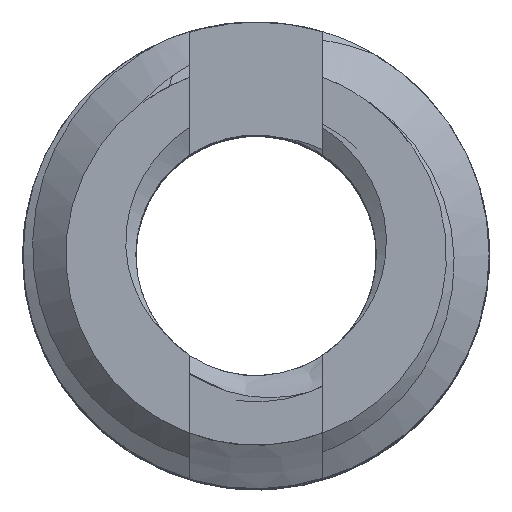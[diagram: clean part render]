
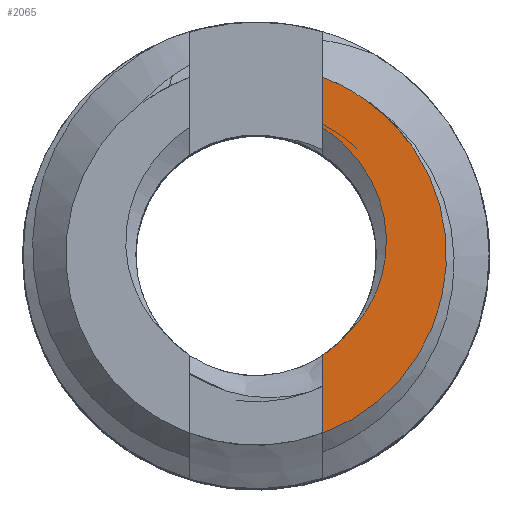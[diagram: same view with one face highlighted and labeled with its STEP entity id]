
A CAD part, top view. The second image highlights one B-rep face of the part: STEP entity #2065.
In plain terms, the highlighted planar face has unit normal (0, 0, 1).
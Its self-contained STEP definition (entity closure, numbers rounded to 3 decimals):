
#52=PLANE('',#2185);
#161=FACE_OUTER_BOUND('',#271,.T.);
#271=EDGE_LOOP('',(#1874,#1875,#1876,#1877,#1878,#1879,#1880));
#283=CIRCLE('',#2166,1.995);
#286=CIRCLE('',#2176,1.265);
#288=CIRCLE('',#2182,2.);
#451=B_SPLINE_CURVE_WITH_KNOTS('',3,(#5705,#5706,#5707,#5708),
 .UNSPECIFIED.,.F.,.F.,(4,4),(0.459,0.464),
 .UNSPECIFIED.);
#484=B_SPLINE_CURVE_WITH_KNOTS('',3,(#7319,#7320,#7321,#7322,#7323,#7324,
#7325,#7326,#7327,#7328,#7329,#7330,#7331,#7332,#7333,#7334,#7335,#7336,
#7337,#7338,#7339,#7340,#7341,#7342,#7343,#7344,#7345,#7346,#7347,#7348,
#7349,#7350,#7351,#7352,#7353,#7354,#7355,#7356,#7357,#7358,#7359,#7360,
#7361,#7362,#7363,#7364,#7365,#7366,#7367,#7368,#7369,#7370,#7371,#7372,
#7373,#7374,#7375,#7376,#7377,#7378,#7379,#7380,#7381,#7382,#7383,#7384,
#7385,#7386,#7387,#7388,#7389,#7390,#7391),.UNSPECIFIED.,.F.,.F.,(4,3,3,
3,3,3,3,3,3,3,3,3,3,3,3,3,3,3,3,3,3,3,3,3,4),(0.034,0.047,
0.055,0.059,0.062,0.08,
0.097,0.108,0.113,0.116,
0.133,0.141,0.158,0.168,
0.171,0.189,0.205,0.216,
0.222,0.226,0.242,0.254,
0.258,0.274,0.286),.UNSPECIFIED.);
#565=LINE('',#4756,#666);
#586=LINE('',#5077,#687);
#666=VECTOR('',#2398,10.);
#687=VECTOR('',#2425,10.);
#844=VERTEX_POINT('',#4750);
#845=VERTEX_POINT('',#4755);
#886=VERTEX_POINT('',#5072);
#887=VERTEX_POINT('',#5076);
#900=VERTEX_POINT('',#5697);
#901=VERTEX_POINT('',#5704);
#908=VERTEX_POINT('',#6650);
#1117=EDGE_CURVE('',#845,#844,#565,.T.);
#1164=EDGE_CURVE('',#887,#886,#586,.T.);
#1183=EDGE_CURVE('',#901,#900,#451,.T.);
#1207=EDGE_CURVE('',#900,#845,#283,.T.);
#1221=EDGE_CURVE('',#908,#887,#286,.F.);
#1224=EDGE_CURVE('',#844,#908,#484,.T.);
#1230=EDGE_CURVE('',#886,#901,#288,.T.);
#1874=ORIENTED_EDGE('',*,*,#1164,.T.);
#1875=ORIENTED_EDGE('',*,*,#1230,.T.);
#1876=ORIENTED_EDGE('',*,*,#1183,.T.);
#1877=ORIENTED_EDGE('',*,*,#1207,.T.);
#1878=ORIENTED_EDGE('',*,*,#1117,.T.);
#1879=ORIENTED_EDGE('',*,*,#1224,.T.);
#1880=ORIENTED_EDGE('',*,*,#1221,.T.);
#2065=ADVANCED_FACE('',(#161),#52,.T.);
#2166=AXIS2_PLACEMENT_3D('',#6514,#2461,#2462);
#2176=AXIS2_PLACEMENT_3D('',#6651,#2481,#2482);
#2182=AXIS2_PLACEMENT_3D('',#8145,#2493,#2494);
#2185=AXIS2_PLACEMENT_3D('',#8212,#2499,#2500);
#2398=DIRECTION('',(0.,-1.,0.));
#2425=DIRECTION('',(0.,-1.,0.));
#2461=DIRECTION('center_axis',(0.,0.,1.));
#2462=DIRECTION('ref_axis',(1.,0.,0.));
#2481=DIRECTION('center_axis',(0.,0.,1.));
#2482=DIRECTION('ref_axis',(1.,0.,0.));
#2493=DIRECTION('center_axis',(0.,0.,1.));
#2494=DIRECTION('ref_axis',(-1.,0.,0.));
#2499=DIRECTION('center_axis',(0.,0.,1.));
#2500=DIRECTION('ref_axis',(1.,0.,0.));
#4750=CARTESIAN_POINT('',(0.7,1.341,10.));
#4755=CARTESIAN_POINT('',(0.7,1.868,10.));
#4756=CARTESIAN_POINT('',(0.7,3.707,10.));
#5072=CARTESIAN_POINT('',(0.7,-1.873,10.));
#5076=CARTESIAN_POINT('',(0.7,-1.053,10.));
#5077=CARTESIAN_POINT('',(0.7,3.707,10.));
#5697=CARTESIAN_POINT('',(1.16,1.623,10.));
#5704=CARTESIAN_POINT('',(1.202,1.599,10.));
#5705=CARTESIAN_POINT('Ctrl Pts',(1.202,1.599,10.));
#5706=CARTESIAN_POINT('Ctrl Pts',(1.188,1.607,10.));
#5707=CARTESIAN_POINT('Ctrl Pts',(1.174,1.615,10.));
#5708=CARTESIAN_POINT('Ctrl Pts',(1.16,1.623,10.));
#6514=CARTESIAN_POINT('Origin',(0.,0.,10.));
#6650=CARTESIAN_POINT('',(0.958,-0.825,10.));
#6651=CARTESIAN_POINT('Origin',(0.,0.,10.));
#7319=CARTESIAN_POINT('Ctrl Pts',(0.7,1.341,10.));
#7320=CARTESIAN_POINT('Ctrl Pts',(0.737,1.317,10.));
#7321=CARTESIAN_POINT('Ctrl Pts',(0.773,1.291,10.));
#7322=CARTESIAN_POINT('Ctrl Pts',(0.808,1.264,10.));
#7323=CARTESIAN_POINT('Ctrl Pts',(0.828,1.249,10.));
#7324=CARTESIAN_POINT('Ctrl Pts',(0.848,1.232,10.));
#7325=CARTESIAN_POINT('Ctrl Pts',(0.867,1.216,10.));
#7326=CARTESIAN_POINT('Ctrl Pts',(0.877,1.207,10.));
#7327=CARTESIAN_POINT('Ctrl Pts',(0.887,1.198,10.));
#7328=CARTESIAN_POINT('Ctrl Pts',(0.897,1.189,10.));
#7329=CARTESIAN_POINT('Ctrl Pts',(0.905,1.181,10.));
#7330=CARTESIAN_POINT('Ctrl Pts',(0.914,1.174,10.));
#7331=CARTESIAN_POINT('Ctrl Pts',(0.922,1.166,10.));
#7332=CARTESIAN_POINT('Ctrl Pts',(0.964,1.125,10.));
#7333=CARTESIAN_POINT('Ctrl Pts',(1.004,1.082,10.));
#7334=CARTESIAN_POINT('Ctrl Pts',(1.041,1.037,10.));
#7335=CARTESIAN_POINT('Ctrl Pts',(1.078,0.992,10.));
#7336=CARTESIAN_POINT('Ctrl Pts',(1.112,0.946,10.));
#7337=CARTESIAN_POINT('Ctrl Pts',(1.144,0.897,10.));
#7338=CARTESIAN_POINT('Ctrl Pts',(1.163,0.867,10.));
#7339=CARTESIAN_POINT('Ctrl Pts',(1.181,0.836,10.));
#7340=CARTESIAN_POINT('Ctrl Pts',(1.199,0.805,10.));
#7341=CARTESIAN_POINT('Ctrl Pts',(1.207,0.79,10.));
#7342=CARTESIAN_POINT('Ctrl Pts',(1.215,0.774,10.));
#7343=CARTESIAN_POINT('Ctrl Pts',(1.222,0.759,10.));
#7344=CARTESIAN_POINT('Ctrl Pts',(1.227,0.75,10.));
#7345=CARTESIAN_POINT('Ctrl Pts',(1.232,0.74,10.));
#7346=CARTESIAN_POINT('Ctrl Pts',(1.236,0.731,10.));
#7347=CARTESIAN_POINT('Ctrl Pts',(1.26,0.68,10.));
#7348=CARTESIAN_POINT('Ctrl Pts',(1.281,0.628,10.));
#7349=CARTESIAN_POINT('Ctrl Pts',(1.299,0.574,10.));
#7350=CARTESIAN_POINT('Ctrl Pts',(1.307,0.552,10.));
#7351=CARTESIAN_POINT('Ctrl Pts',(1.313,0.529,10.));
#7352=CARTESIAN_POINT('Ctrl Pts',(1.32,0.507,10.));
#7353=CARTESIAN_POINT('Ctrl Pts',(1.335,0.452,10.));
#7354=CARTESIAN_POINT('Ctrl Pts',(1.346,0.396,10.));
#7355=CARTESIAN_POINT('Ctrl Pts',(1.355,0.34,10.));
#7356=CARTESIAN_POINT('Ctrl Pts',(1.36,0.305,10.));
#7357=CARTESIAN_POINT('Ctrl Pts',(1.363,0.271,10.));
#7358=CARTESIAN_POINT('Ctrl Pts',(1.366,0.236,10.));
#7359=CARTESIAN_POINT('Ctrl Pts',(1.366,0.226,10.));
#7360=CARTESIAN_POINT('Ctrl Pts',(1.367,0.215,10.));
#7361=CARTESIAN_POINT('Ctrl Pts',(1.367,0.205,10.));
#7362=CARTESIAN_POINT('Ctrl Pts',(1.37,0.146,10.));
#7363=CARTESIAN_POINT('Ctrl Pts',(1.369,0.088,10.));
#7364=CARTESIAN_POINT('Ctrl Pts',(1.365,0.03,10.));
#7365=CARTESIAN_POINT('Ctrl Pts',(1.36,-0.024,
10.));
#7366=CARTESIAN_POINT('Ctrl Pts',(1.353,-0.079,10.));
#7367=CARTESIAN_POINT('Ctrl Pts',(1.342,-0.132,10.));
#7368=CARTESIAN_POINT('Ctrl Pts',(1.335,-0.167,10.));
#7369=CARTESIAN_POINT('Ctrl Pts',(1.327,-0.202,10.));
#7370=CARTESIAN_POINT('Ctrl Pts',(1.317,-0.237,10.));
#7371=CARTESIAN_POINT('Ctrl Pts',(1.311,-0.255,10.));
#7372=CARTESIAN_POINT('Ctrl Pts',(1.306,-0.274,10.));
#7373=CARTESIAN_POINT('Ctrl Pts',(1.3,-0.292,10.));
#7374=CARTESIAN_POINT('Ctrl Pts',(1.295,-0.305,10.));
#7375=CARTESIAN_POINT('Ctrl Pts',(1.291,-0.318,10.));
#7376=CARTESIAN_POINT('Ctrl Pts',(1.286,-0.331,10.));
#7377=CARTESIAN_POINT('Ctrl Pts',(1.269,-0.379,10.));
#7378=CARTESIAN_POINT('Ctrl Pts',(1.248,-0.425,10.));
#7379=CARTESIAN_POINT('Ctrl Pts',(1.225,-0.471,10.));
#7380=CARTESIAN_POINT('Ctrl Pts',(1.207,-0.507,10.));
#7381=CARTESIAN_POINT('Ctrl Pts',(1.187,-0.542,10.));
#7382=CARTESIAN_POINT('Ctrl Pts',(1.165,-0.576,10.));
#7383=CARTESIAN_POINT('Ctrl Pts',(1.157,-0.588,10.));
#7384=CARTESIAN_POINT('Ctrl Pts',(1.149,-0.601,10.));
#7385=CARTESIAN_POINT('Ctrl Pts',(1.141,-0.613,10.));
#7386=CARTESIAN_POINT('Ctrl Pts',(1.111,-0.656,10.));
#7387=CARTESIAN_POINT('Ctrl Pts',(1.078,-0.698,10.));
#7388=CARTESIAN_POINT('Ctrl Pts',(1.042,-0.738,10.));
#7389=CARTESIAN_POINT('Ctrl Pts',(1.016,-0.768,10.));
#7390=CARTESIAN_POINT('Ctrl Pts',(0.987,-0.797,10.));
#7391=CARTESIAN_POINT('Ctrl Pts',(0.958,-0.825,10.));
#8145=CARTESIAN_POINT('Origin',(0.,0.,10.));
#8212=CARTESIAN_POINT('Origin',(0.,0.,10.));
